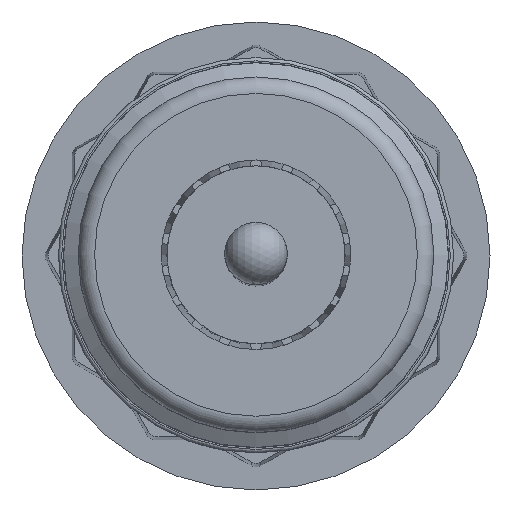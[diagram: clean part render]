
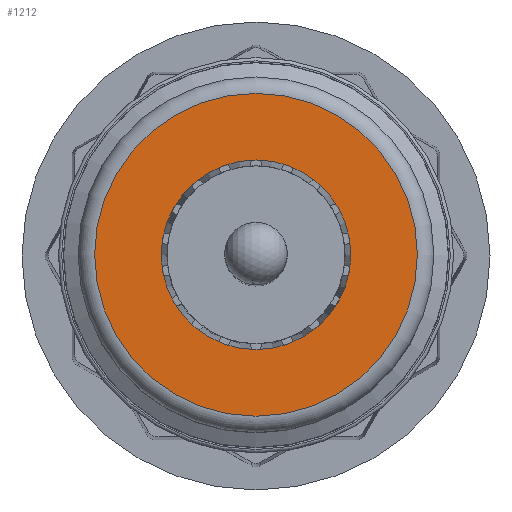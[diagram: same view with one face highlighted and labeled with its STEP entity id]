
A CAD part, top view. The second image highlights one B-rep face of the part: STEP entity #1212.
In plain terms, the highlighted planar face has unit normal (0, 0, 1).
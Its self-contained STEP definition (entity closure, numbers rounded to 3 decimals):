
#247 = EDGE_LOOP ( 'NONE', ( #4288 ) ) ;
#854 = FACE_OUTER_BOUND ( 'NONE', #247, .T. ) ;
#951 = VERTEX_POINT ( 'NONE', #5584 ) ;
#1020 = PLANE ( 'NONE',  #5851 ) ;
#1212 = ADVANCED_FACE ( 'NONE', ( #854, #4586 ), #1020, .F. ) ;
#1509 = AXIS2_PLACEMENT_3D ( 'NONE', #1816, #6643, #5002 ) ;
#1816 = CARTESIAN_POINT ( 'NONE',  ( 0., 0., 24. ) ) ;
#2309 = CARTESIAN_POINT ( 'NONE',  ( -4.9, 0., 24. ) ) ;
#2396 = CARTESIAN_POINT ( 'NONE',  ( 0., 0., 24. ) ) ;
#2669 = VERTEX_POINT ( 'NONE', #2309 ) ;
#2760 = DIRECTION ( 'NONE',  ( 0., 0., -1. ) ) ;
#3468 = DIRECTION ( 'NONE',  ( 1., 0., 0. ) ) ;
#3534 = AXIS2_PLACEMENT_3D ( 'NONE', #2396, #6672, #3468 ) ;
#4134 = EDGE_LOOP ( 'NONE', ( #5898 ) ) ;
#4288 = ORIENTED_EDGE ( 'NONE', *, *, #4511, .T. ) ;
#4511 = EDGE_CURVE ( 'NONE', #2669, #2669, #6046, .T. ) ;
#4586 = FACE_BOUND ( 'NONE', #4134, .T. ) ;
#4861 = DIRECTION ( 'NONE',  ( -1., 0., 0. ) ) ;
#5002 = DIRECTION ( 'NONE',  ( -1., 0., 0. ) ) ;
#5492 = EDGE_CURVE ( 'NONE', #951, #951, #6781, .T. ) ;
#5584 = CARTESIAN_POINT ( 'NONE',  ( 2.879, 0., 24. ) ) ;
#5851 = AXIS2_PLACEMENT_3D ( 'NONE', #6348, #2760, #4861 ) ;
#5898 = ORIENTED_EDGE ( 'NONE', *, *, #5492, .F. ) ;
#6046 = CIRCLE ( 'NONE', #1509, 4.9 ) ;
#6348 = CARTESIAN_POINT ( 'NONE',  ( 0., 5.4, 24. ) ) ;
#6643 = DIRECTION ( 'NONE',  ( 0., 0., 1. ) ) ;
#6672 = DIRECTION ( 'NONE',  ( 0., 0., 1. ) ) ;
#6781 = CIRCLE ( 'NONE', #3534, 2.879 ) ;
